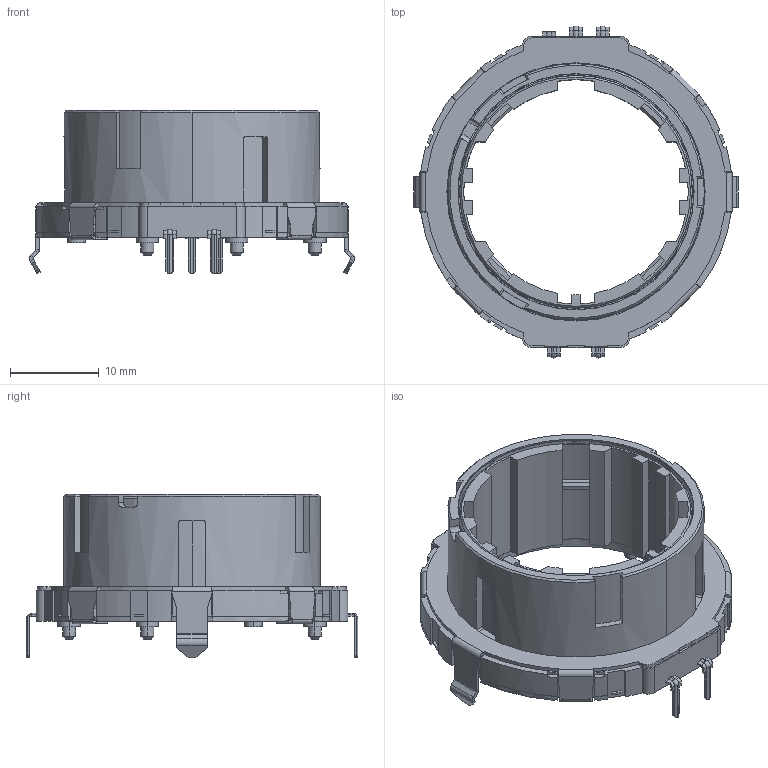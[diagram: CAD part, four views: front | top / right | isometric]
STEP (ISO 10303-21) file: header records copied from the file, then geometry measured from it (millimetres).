
FILE_DESCRIPTION (( 'STEP AP214' ), '1' );
FILE_NAME ('EC35AH(h15-18P).STEP', '2015-03-19T10:50:25', ( '' ), ( '' ), 'SwSTEP 2.0', 'SolidWorks 2014', '' );
FILE_SCHEMA (( 'AUTOMOTIVE_DESIGN' ));
Length unit declared in the file: millimetre
Products named in the file (1): EC35AH(h15-18P)
Bounding box: 36.5 x 37.3 x 18.38 mm (x, y, z)
Volume: 3781.3 mm3; surface area: 4562.4 mm2
Topology: 5 solids, 5 shells, 788 faces, 2079 edges, 1321 vertices
Faces by surface type: plane 469, cylinder 260, bspline 24, cone 19, torus 16
Entity records: 33384 total; most frequent: CARTESIAN_POINT 5436, ORIENTED_EDGE 4158, DIRECTION 3893, EDGE_CURVE 2079, VECTOR 1373, LINE 1373, VERTEX_POINT 1321, AXIS2_PLACEMENT_3D 1260
